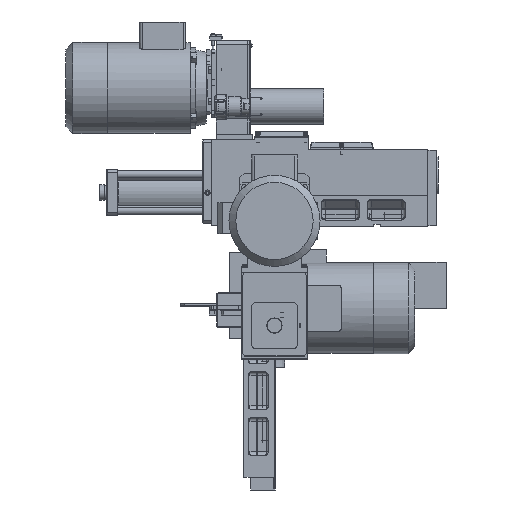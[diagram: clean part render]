
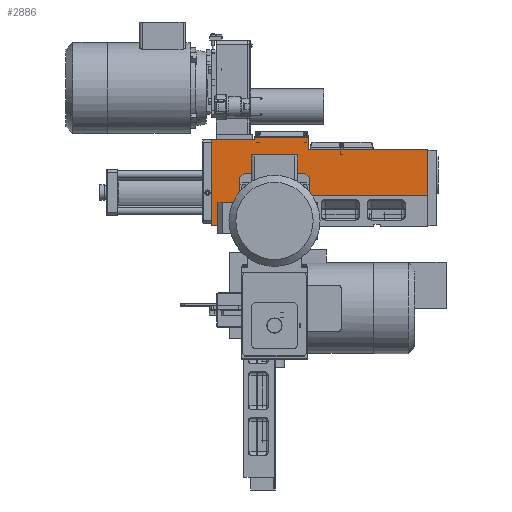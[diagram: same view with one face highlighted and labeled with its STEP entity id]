
A CAD part, front view. The second image highlights one B-rep face of the part: STEP entity #2886.
In plain terms, the highlighted planar face has unit normal (0, -1, 0).
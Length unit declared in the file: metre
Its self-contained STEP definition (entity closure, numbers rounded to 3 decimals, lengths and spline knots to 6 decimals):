
#2886 = ADVANCED_FACE( '', ( #4930 ), #4931, .T. );
#4930 = FACE_OUTER_BOUND( '', #9090, .T. );
#4931 = PLANE( '', #9091 );
#9090 = EDGE_LOOP( '', ( #15002, #15003, #15004, #15005, #15006, #15007, #15008, #15009, #15010, #15011 ) );
#9091 = AXIS2_PLACEMENT_3D( '', #15012, #15013, #15014 );
#15002 = ORIENTED_EDGE( '', *, *, #18475, .T. );
#15003 = ORIENTED_EDGE( '', *, *, #18476, .T. );
#15004 = ORIENTED_EDGE( '', *, *, #18477, .F. );
#15005 = ORIENTED_EDGE( '', *, *, #18478, .T. );
#15006 = ORIENTED_EDGE( '', *, *, #18479, .T. );
#15007 = ORIENTED_EDGE( '', *, *, #18461, .T. );
#15008 = ORIENTED_EDGE( '', *, *, #18474, .T. );
#15009 = ORIENTED_EDGE( '', *, *, #18480, .T. );
#15010 = ORIENTED_EDGE( '', *, *, #18481, .T. );
#15011 = ORIENTED_EDGE( '', *, *, #18482, .T. );
#15012 = CARTESIAN_POINT( '', ( 0.337, -0.003889, 0. ) );
#15013 = DIRECTION( '', ( 0., -1., 0. ) );
#15014 = DIRECTION( '', ( 1., 0., 0. ) );
#18461 = EDGE_CURVE( '', #21569, #21567, #21570, .T. );
#18474 = EDGE_CURVE( '', #21567, #21591, #21593, .T. );
#18475 = EDGE_CURVE( '', #21594, #21595, #21596, .T. );
#18476 = EDGE_CURVE( '', #21595, #21597, #21598, .T. );
#18477 = EDGE_CURVE( '', #21599, #21597, #21600, .T. );
#18478 = EDGE_CURVE( '', #21599, #21601, #21602, .T. );
#18479 = EDGE_CURVE( '', #21601, #21569, #21603, .T. );
#18480 = EDGE_CURVE( '', #21591, #21604, #21605, .T. );
#18481 = EDGE_CURVE( '', #21604, #21606, #21607, .T. );
#18482 = EDGE_CURVE( '', #21606, #21594, #21608, .T. );
#21567 = VERTEX_POINT( '', #28029 );
#21569 = VERTEX_POINT( '', #28032 );
#21570 = LINE( '', #28033, #28034 );
#21591 = VERTEX_POINT( '', #28066 );
#21593 = LINE( '', #28069, #28070 );
#21594 = VERTEX_POINT( '', #28071 );
#21595 = VERTEX_POINT( '', #28072 );
#21596 = LINE( '', #28073, #28074 );
#21597 = VERTEX_POINT( '', #28075 );
#21598 = LINE( '', #28076, #28077 );
#21599 = VERTEX_POINT( '', #28078 );
#21600 = LINE( '', #28079, #28080 );
#21601 = VERTEX_POINT( '', #28081 );
#21602 = LINE( '', #28082, #28083 );
#21603 = LINE( '', #28084, #28085 );
#21604 = VERTEX_POINT( '', #28086 );
#21605 = LINE( '', #28087, #28088 );
#21606 = VERTEX_POINT( '', #28089 );
#21607 = LINE( '', #28090, #28091 );
#21608 = LINE( '', #28092, #28093 );
#28029 = CARTESIAN_POINT( '', ( 0.337, -0.003889, 0.09 ) );
#28032 = CARTESIAN_POINT( '', ( 0.337, -0.003889, 0. ) );
#28033 = CARTESIAN_POINT( '', ( 0.337, -0.003889, 0. ) );
#28034 = VECTOR( '', #31594, 1. );
#28066 = CARTESIAN_POINT( '', ( 0.102, -0.003889, 0.09 ) );
#28069 = CARTESIAN_POINT( '', ( -0.005, -0.003889, 0.09 ) );
#28070 = VECTOR( '', #31607, 1. );
#28071 = CARTESIAN_POINT( '', ( -0.003, -0.003889, 0.11 ) );
#28072 = CARTESIAN_POINT( '', ( -0.088, -0.003889, 0.11 ) );
#28073 = CARTESIAN_POINT( '', ( 0.14575, -0.003889, 0.11 ) );
#28074 = VECTOR( '', #31608, 1. );
#28075 = CARTESIAN_POINT( '', ( -0.088, -0.003889, -0.059 ) );
#28076 = CARTESIAN_POINT( '', ( -0.088, -0.003889, -0.059 ) );
#28077 = VECTOR( '', #31609, 1. );
#28078 = CARTESIAN_POINT( '', ( -0.005, -0.003889, -0.059 ) );
#28079 = CARTESIAN_POINT( '', ( -0.005, -0.003889, -0.059 ) );
#28080 = VECTOR( '', #31610, 1. );
#28081 = CARTESIAN_POINT( '', ( -0.005, -0.003889, 0. ) );
#28082 = CARTESIAN_POINT( '', ( -0.005, -0.003889, -0.059 ) );
#28083 = VECTOR( '', #31611, 1. );
#28084 = CARTESIAN_POINT( '', ( -0.005, -0.003889, 0. ) );
#28085 = VECTOR( '', #31612, 1. );
#28086 = CARTESIAN_POINT( '', ( 0.102, -0.003889, 0.115 ) );
#28087 = CARTESIAN_POINT( '', ( 0.102, -0.003889, 0.09 ) );
#28088 = VECTOR( '', #31613, 1. );
#28089 = CARTESIAN_POINT( '', ( -0.003, -0.003889, 0.115 ) );
#28090 = CARTESIAN_POINT( '', ( -0.005, -0.003889, 0.115 ) );
#28091 = VECTOR( '', #31614, 1. );
#28092 = CARTESIAN_POINT( '', ( -0.003, -0.003889, 0.058735 ) );
#28093 = VECTOR( '', #31615, 1. );
#31594 = DIRECTION( '', ( 0., 0., 1. ) );
#31607 = DIRECTION( '', ( -1., 0., 0. ) );
#31608 = DIRECTION( '', ( -1., 0., 0. ) );
#31609 = DIRECTION( '', ( 0., 0., -1. ) );
#31610 = DIRECTION( '', ( -1., 0., 0. ) );
#31611 = DIRECTION( '', ( 0., 0., 1. ) );
#31612 = DIRECTION( '', ( 1., 0., 0. ) );
#31613 = DIRECTION( '', ( 0., 0., 1. ) );
#31614 = DIRECTION( '', ( -1., 0., 0. ) );
#31615 = DIRECTION( '', ( 0., 0., -1. ) );
